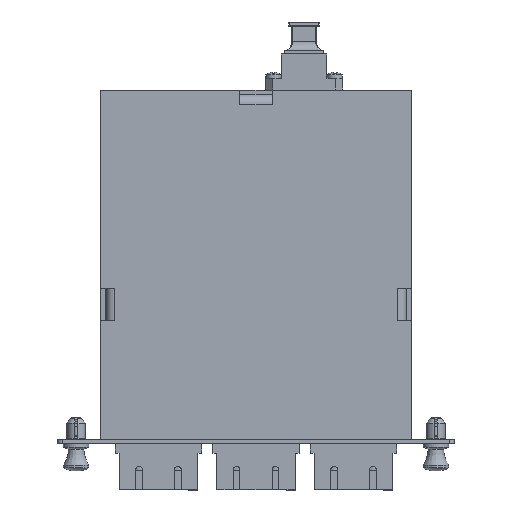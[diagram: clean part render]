
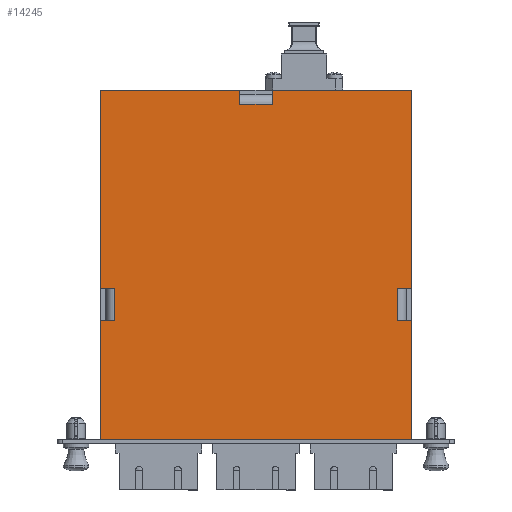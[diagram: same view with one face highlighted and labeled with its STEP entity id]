
A CAD part, top view. The second image highlights one B-rep face of the part: STEP entity #14245.
In plain terms, the highlighted planar face has unit normal (0, 0, 1).
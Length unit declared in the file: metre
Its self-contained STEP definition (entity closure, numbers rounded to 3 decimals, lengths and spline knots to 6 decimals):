
#3542=ORIENTED_EDGE('',*,*,#6192,.F.);
#3543=ORIENTED_EDGE('',*,*,#6189,.F.);
#3544=ORIENTED_EDGE('',*,*,#6158,.T.);
#3545=ORIENTED_EDGE('',*,*,#6207,.F.);
#3546=ORIENTED_EDGE('',*,*,#6188,.F.);
#3547=ORIENTED_EDGE('',*,*,#6183,.F.);
#3548=ORIENTED_EDGE('',*,*,#6180,.T.);
#3549=ORIENTED_EDGE('',*,*,#6177,.T.);
#3550=ORIENTED_EDGE('',*,*,#6208,.T.);
#3551=ORIENTED_EDGE('',*,*,#6164,.F.);
#3552=ORIENTED_EDGE('',*,*,#6174,.T.);
#3553=ORIENTED_EDGE('',*,*,#6171,.F.);
#3554=ORIENTED_EDGE('',*,*,#6168,.F.);
#3555=ORIENTED_EDGE('',*,*,#6162,.T.);
#3556=ORIENTED_EDGE('',*,*,#6209,.F.);
#3557=ORIENTED_EDGE('',*,*,#6197,.F.);
#6158=EDGE_CURVE('',#7731,#7730,#9206,.F.);
#6162=EDGE_CURVE('',#7735,#7734,#9209,.F.);
#6164=EDGE_CURVE('',#7736,#7737,#9211,.F.);
#6168=EDGE_CURVE('',#7735,#7740,#9214,.T.);
#6171=EDGE_CURVE('',#7740,#7742,#9217,.T.);
#6174=EDGE_CURVE('',#7736,#7742,#9220,.T.);
#6177=EDGE_CURVE('',#7746,#7744,#9222,.F.);
#6180=EDGE_CURVE('',#7748,#7746,#9225,.T.);
#6183=EDGE_CURVE('',#7748,#7750,#9228,.T.);
#6188=EDGE_CURVE('',#7750,#7753,#9232,.F.);
#6189=EDGE_CURVE('',#7731,#7754,#9233,.T.);
#6192=EDGE_CURVE('',#7754,#7756,#9236,.T.);
#6197=EDGE_CURVE('',#7756,#7759,#9240,.F.);
#6207=EDGE_CURVE('',#7753,#7730,#9250,.T.);
#6208=EDGE_CURVE('',#7744,#7737,#9251,.F.);
#6209=EDGE_CURVE('',#7759,#7734,#9252,.T.);
#7730=VERTEX_POINT('',#23012);
#7731=VERTEX_POINT('',#23014);
#7734=VERTEX_POINT('',#23021);
#7735=VERTEX_POINT('',#23023);
#7736=VERTEX_POINT('',#23027);
#7737=VERTEX_POINT('',#23028);
#7740=VERTEX_POINT('',#23036);
#7742=VERTEX_POINT('',#23042);
#7744=VERTEX_POINT('',#23051);
#7746=VERTEX_POINT('',#23054);
#7748=VERTEX_POINT('',#23060);
#7750=VERTEX_POINT('',#23066);
#7753=VERTEX_POINT('',#23073);
#7754=VERTEX_POINT('',#23078);
#7756=VERTEX_POINT('',#23084);
#7759=VERTEX_POINT('',#23091);
#9206=LINE('',#23013,#10753);
#9209=LINE('',#23022,#10756);
#9211=LINE('',#23026,#10758);
#9214=LINE('',#23035,#10761);
#9217=LINE('',#23041,#10764);
#9220=LINE('',#23047,#10767);
#9222=LINE('',#23053,#10769);
#9225=LINE('',#23059,#10772);
#9228=LINE('',#23065,#10775);
#9232=LINE('',#23075,#10779);
#9233=LINE('',#23077,#10780);
#9236=LINE('',#23083,#10783);
#9240=LINE('',#23093,#10787);
#9250=LINE('',#23111,#10797);
#9251=LINE('',#23112,#10798);
#9252=LINE('',#23113,#10799);
#10753=VECTOR('',#18593,1.);
#10756=VECTOR('',#18600,1.);
#10758=VECTOR('',#18604,1.);
#10761=VECTOR('',#18611,1.);
#10764=VECTOR('',#18616,1.);
#10767=VECTOR('',#18621,1.);
#10769=VECTOR('',#18627,1.);
#10772=VECTOR('',#18632,1.);
#10775=VECTOR('',#18637,1.);
#10779=VECTOR('',#18645,1.);
#10780=VECTOR('',#18648,1.);
#10783=VECTOR('',#18653,1.);
#10787=VECTOR('',#18661,1.);
#10797=VECTOR('',#18675,1.);
#10798=VECTOR('',#18676,1.);
#10799=VECTOR('',#18677,1.);
#11909=EDGE_LOOP('',(#3542,#3543,#3544,#3545,#3546,#3547,#3548,#3549,#3550,
#3551,#3552,#3553,#3554,#3555,#3556,#3557));
#12846=FACE_BOUND('',#11909,.T.);
#13547=PLANE('',#15661);
#14245=ADVANCED_FACE('',(#12846),#13547,.F.);
#15661=AXIS2_PLACEMENT_3D('',#23110,#18673,#18674);
#18593=DIRECTION('',(0.,1.,0.));
#18600=DIRECTION('',(1.,0.,0.));
#18604=DIRECTION('',(-1.,0.,0.));
#18611=DIRECTION('',(0.,-1.,0.));
#18616=DIRECTION('',(-1.,0.,0.));
#18621=DIRECTION('',(0.,-1.,0.));
#18627=DIRECTION('',(-1.,0.,0.));
#18632=DIRECTION('',(0.,-1.,0.));
#18637=DIRECTION('',(1.,0.,0.));
#18645=DIRECTION('',(0.,1.,0.));
#18648=DIRECTION('',(1.,0.,0.));
#18653=DIRECTION('',(0.,-1.,0.));
#18661=DIRECTION('',(1.,0.,0.));
#18673=DIRECTION('',(0.,0.,-1.));
#18674=DIRECTION('',(-1.,0.,0.));
#18675=DIRECTION('',(1.,0.,0.));
#18676=DIRECTION('',(0.,1.,0.));
#18677=DIRECTION('',(0.,-1.,0.));
#23012=CARTESIAN_POINT('',(0.00525,0.0534,0.0285));
#23013=CARTESIAN_POINT('',(0.00525,0.058002,0.0285));
#23014=CARTESIAN_POINT('',(0.00525,0.058,0.0285));
#23021=CARTESIAN_POINT('',(0.0464,-0.0175,0.0285));
#23022=CARTESIAN_POINT('',(0.002135,-0.0175,0.0285));
#23023=CARTESIAN_POINT('',(0.051,-0.0175,0.0285));
#23026=CARTESIAN_POINT('',(-0.051,-0.0175,0.0285));
#23027=CARTESIAN_POINT('',(-0.051,-0.0175,0.0285));
#23028=CARTESIAN_POINT('',(-0.0464,-0.0175,0.0285));
#23035=CARTESIAN_POINT('',(0.051,0.058002,0.0285));
#23036=CARTESIAN_POINT('',(0.051,-0.0565,0.0285));
#23041=CARTESIAN_POINT('',(0.002135,-0.0565,0.0285));
#23042=CARTESIAN_POINT('',(-0.051,-0.0565,0.0285));
#23047=CARTESIAN_POINT('',(-0.051,0.058002,0.0285));
#23051=CARTESIAN_POINT('',(-0.0464,-0.007,0.0285));
#23053=CARTESIAN_POINT('',(0.002135,-0.007,0.0285));
#23054=CARTESIAN_POINT('',(-0.051,-0.007,0.0285));
#23059=CARTESIAN_POINT('',(-0.051,0.058002,0.0285));
#23060=CARTESIAN_POINT('',(-0.051,0.058,0.0285));
#23065=CARTESIAN_POINT('',(0.002135,0.058,0.0285));
#23066=CARTESIAN_POINT('',(-0.00525,0.058,0.0285));
#23073=CARTESIAN_POINT('',(-0.00525,0.0534,0.0285));
#23075=CARTESIAN_POINT('',(-0.00525,0.058,0.0285));
#23077=CARTESIAN_POINT('',(0.002135,0.058,0.0285));
#23078=CARTESIAN_POINT('',(0.051,0.058,0.0285));
#23083=CARTESIAN_POINT('',(0.051,0.058002,0.0285));
#23084=CARTESIAN_POINT('',(0.051,-0.007,0.0285));
#23091=CARTESIAN_POINT('',(0.0464,-0.007,0.0285));
#23093=CARTESIAN_POINT('',(0.051,-0.007,0.0285));
#23110=CARTESIAN_POINT('',(0.002135,0.058002,0.0285));
#23111=CARTESIAN_POINT('',(0.002135,0.0534,0.0285));
#23112=CARTESIAN_POINT('',(-0.0464,0.058002,0.0285));
#23113=CARTESIAN_POINT('',(0.0464,0.058002,0.0285));
